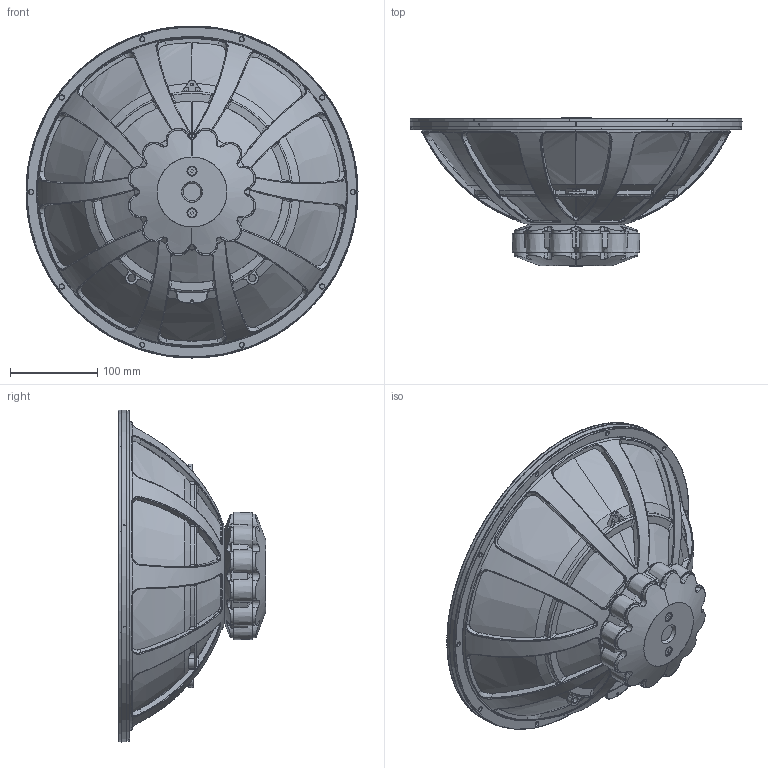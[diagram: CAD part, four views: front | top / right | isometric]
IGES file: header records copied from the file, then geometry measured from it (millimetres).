
Start section: SolidWorks IGES file using analytic representation for surfaces
Global section: file name: W:\TT\38WE\WEB 38WE\38WE_8582T00.IGS; native system: SolidWorks 2019; preprocessor: SolidWorks 2019; author: mhn; date: 201215.093904; units: millimetre
Bounding box: 380 x 169 x 380 mm (x, y, z)
Surface area: 406819.7 mm2 (no closed solid volume)
Topology: 0 solids, 0 shells, 1288 faces, 18420 edges, 18346 vertices
Faces by surface type: bspline 705, revolution 583
